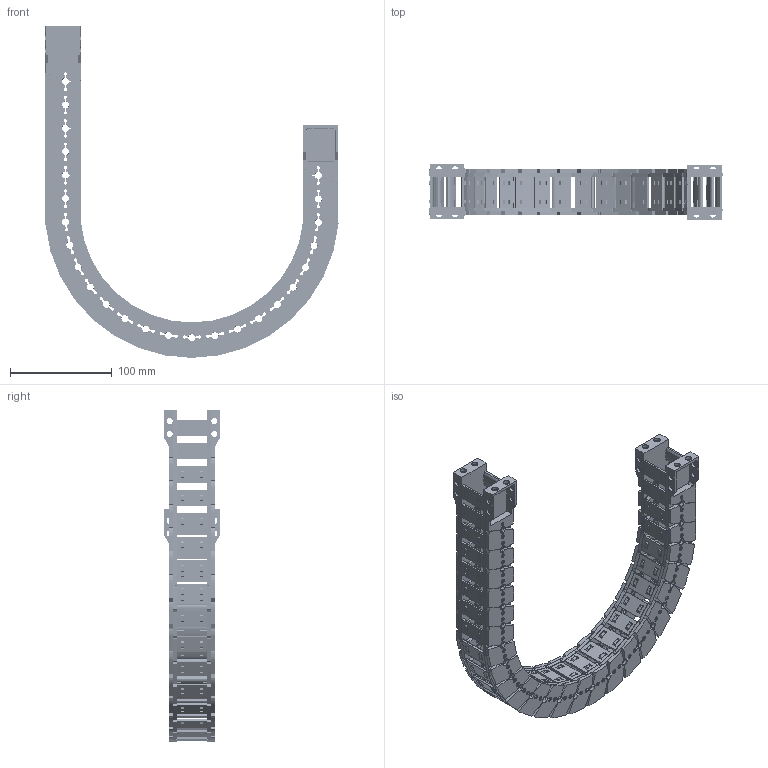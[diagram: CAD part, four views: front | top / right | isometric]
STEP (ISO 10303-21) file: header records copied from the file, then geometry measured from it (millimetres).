
FILE_DESCRIPTION(/* description */ (''),/* implementation_level */ '2;1');
FILE_NAME(/* name */ 'JY28-30-R125.stp',/* time_stamp */ '2026-06-03T13:44:51+08:00',/* author */ (''),/* organization */ (''),/* preprocessor_version */ 'ST-DEVELOPER v19.4',/* originating_system */ 'SIEMENS PLM Software NX2306.5001',/* authorisation */ '');
FILE_SCHEMA (('AP203_CONFIGURATION_CONTROLLED_3D_DESIGN_OF_MECHANICAL_PARTS_AND_ASSEMBLIES_MIM_LF { 1 0 10303 403 2 1 2}'));
Products named in the file (1): _model1_objects
Bounding box: 287.57 x 54 x 325.62 mm (x, y, z)
Volume: 355031.3 mm3; surface area: 260833 mm2
Topology: 98 solids, 98 shells, 8138 faces, 23150 edges, 15130 vertices
Faces by surface type: plane 5330, cone 1480, cylinder 1278, bspline 48, torus 2
Full cylindrical faces by diameter (mm): 6 x24
Entity records: 275371 total; most frequent: CARTESIAN_POINT 61217, ORIENTED_EDGE 46208, DIRECTION 43382, EDGE_CURVE 23104, LINE 15292, VECTOR 15292, VERTEX_POINT 15108, AXIS2_PLACEMENT_3D 14045
